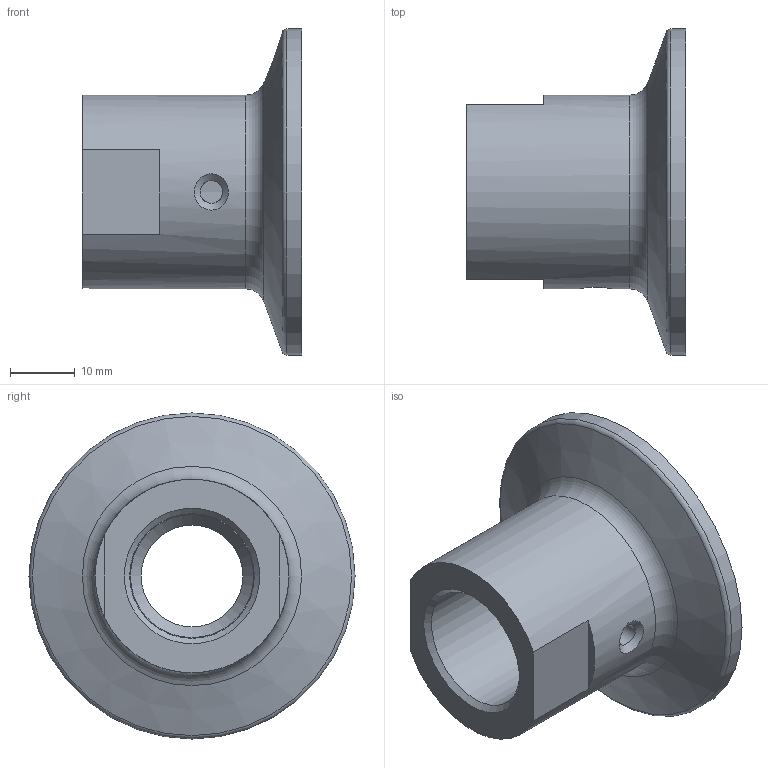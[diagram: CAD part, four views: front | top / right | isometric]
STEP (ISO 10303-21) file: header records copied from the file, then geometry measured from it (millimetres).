
FILE_DESCRIPTION( ( 'Unknown' ), '1' );
FILE_NAME( 'F:/U_Proces/dokumentation new/Mechanical parts/7000 3D Step filer/7000-/7000119/CAM 023-505.stp', 'Unknown', ( 'Unknown' ), ( 'Unknown' ), 'PSStep 13.0', 'Unknown', ' ' );
FILE_SCHEMA( ( 'AUTOMOTIVE_DESIGN { 1 0 10303 214 1 1 1 1 }' ) );
Length unit declared in the file: millimetre
Products named in the file (1): 1
Bounding box: 34 x 50.5 x 50.5 mm (x, y, z)
Surface area: 8882.9 mm2 (no closed solid volume)
Topology: 0 solids, 23 shells, 23 faces, 83 edges, 69 vertices
Faces by surface type: plane 9, cylinder 5, cone 5, torus 3, bspline 1
Full cylindrical faces by diameter (mm): 3.5 x1, 19.1 x1, 19.3 x1, 30 x1, 50.5 x1
Entity records: 1232 total; most frequent: CARTESIAN_POINT 425, DIRECTION 142, AXIS2_PLACEMENT_3D 63, ORIENTED_EDGE 62, EDGE_CURVE 62, VERTEX_POINT 62, FACE_BOUND 44, EDGE_LOOP 44
